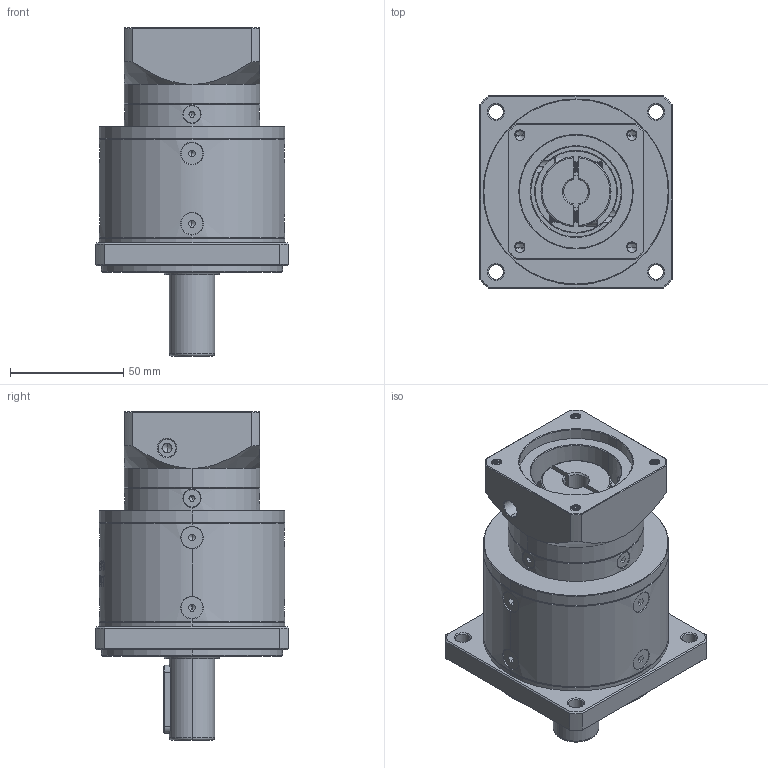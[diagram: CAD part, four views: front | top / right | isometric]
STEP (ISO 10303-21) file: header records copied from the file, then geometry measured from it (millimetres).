
FILE_DESCRIPTION (( 'STEP AP214' ), '1' );
FILE_NAME ('ZF080-D20-L2-P2-11-50-70-M5.step', '2023-08-19T06:52:33', ( '' ), ( '' ), 'SwSTEP 2.0', 'SolidWorks 2016', '' );
FILE_SCHEMA (( 'AUTOMOTIVE_DESIGN' ));
Length unit declared in the file: millimetre
Products named in the file (1): ZF080-D20-L2-P2-11-50-70-M5
Bounding box: 85 x 85 x 145 mm (x, y, z)
Volume: 469457 mm3; surface area: 67837.9 mm2
Topology: 18 solids, 18 shells, 2293 faces, 6042 edges, 3850 vertices
Faces by surface type: plane 1123, cylinder 407, bspline 394, cone 327, torus 42
Entity records: 122071 total; most frequent: CARTESIAN_POINT 45118, ORIENTED_EDGE 12008, DIRECTION 9027, EDGE_CURVE 6004, VERTEX_POINT 3850, LINE 3189, VECTOR 3189, AXIS2_PLACEMENT_3D 2919
